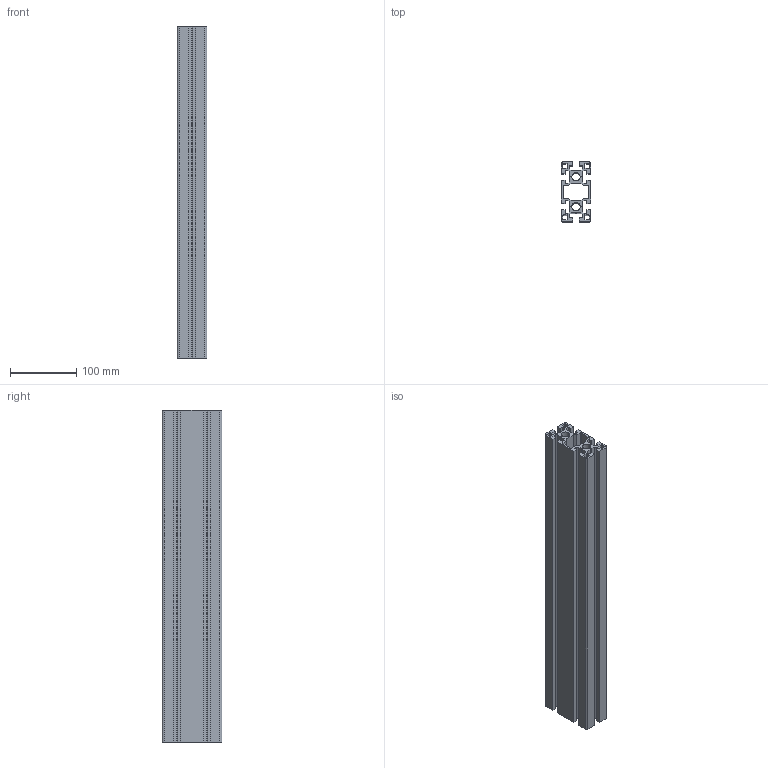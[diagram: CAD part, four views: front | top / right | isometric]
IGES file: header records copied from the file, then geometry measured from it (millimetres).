
Start section: SolidWorks IGES file using analytic representation for surfaces
Global section: file name: C:\Documents and Settings\Administrator\デスクトップ\指定保存後4回目\SolidWorks\SF\SF40・45\Frame\SFF-494.IGS,41HSolidWorks; native system: 2006 by SolidWorks Corporation; preprocessor: SolidWorks 2006 by SolidWorks Corporation; author: Administrator; date: 061218.104519; units: millimetre
Bounding box: 45 x 90 x 500 mm (x, y, z)
Volume: 771455.6 mm3; surface area: 420562.3 mm2
Topology: 1 solids, 1 shells, 152 faces, 450 edges, 300 vertices
Faces by surface type: plane 112, revolution 40
